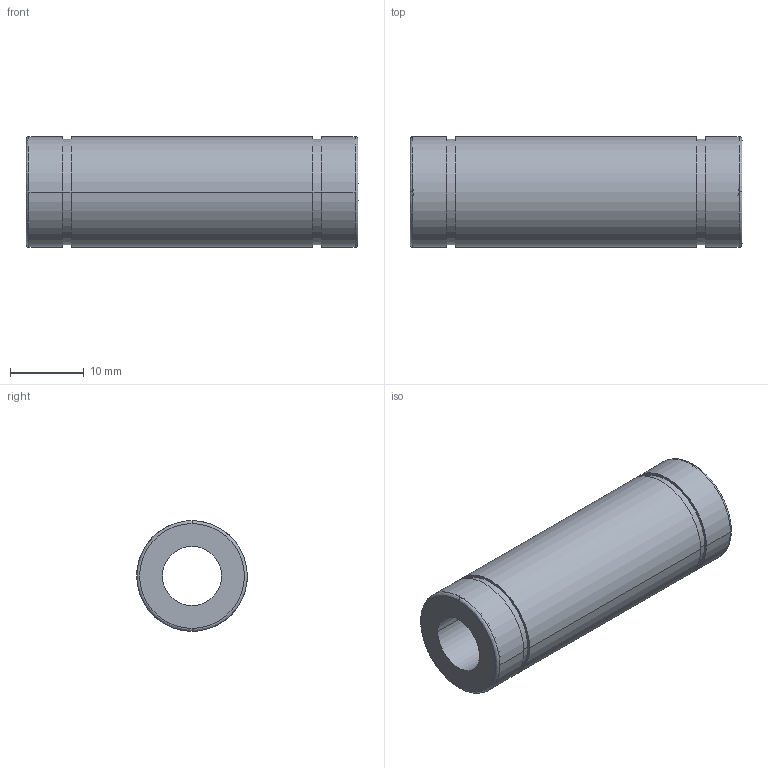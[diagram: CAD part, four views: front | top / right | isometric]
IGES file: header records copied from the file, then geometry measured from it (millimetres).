
Start section: 3D InterOp IGES (Version 21 0 1), Spatial Corp. Copyright (c) 1999-2007.
Global section: file name: NL-8V.igs; native system: Spatial Corp.; preprocessor: 3D InterOp GENERIC/IGES 3.0; author: Noname; organization: Noname; date: 20220311.145734; units: millimetre
Bounding box: 45 x 15 x 15 mm (x, y, z)
Surface area: 3880.1 mm2 (no closed solid volume)
Topology: 0 solids, 0 shells, 22 faces, 108 edges, 104 vertices
Faces by surface type: revolution 16, extrusion 6
